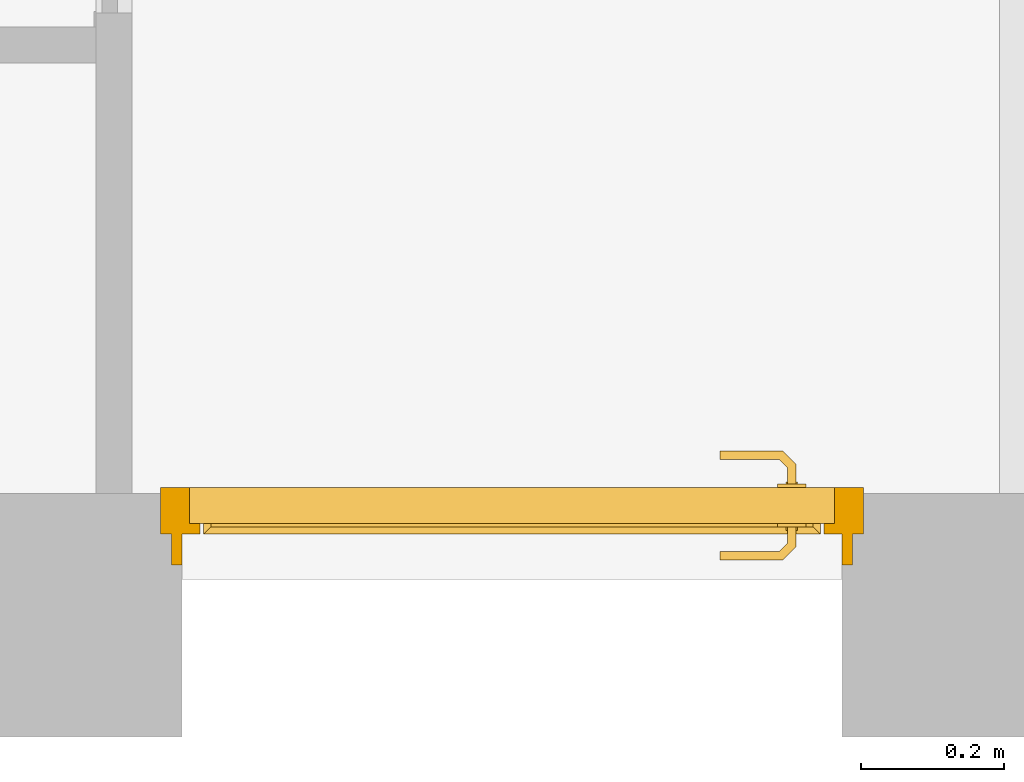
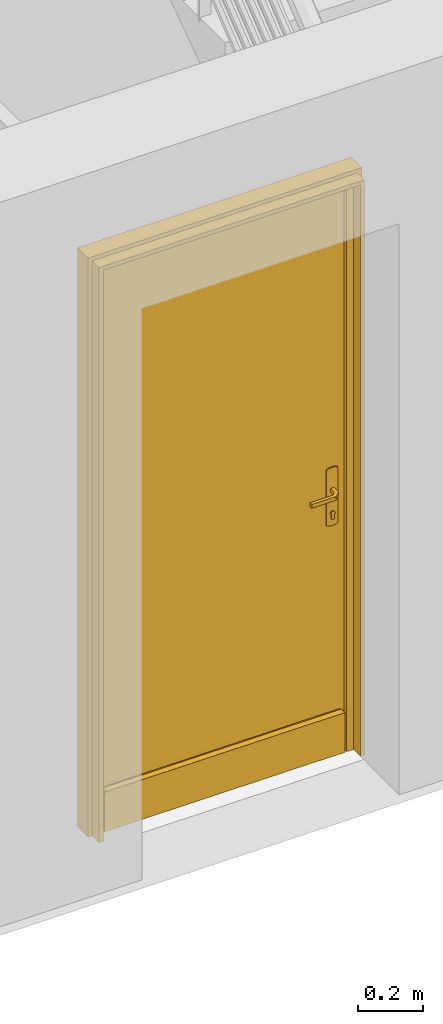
# One storey, part 9 of 13: 1 door.
"""IFC2X3 building model written with IfcOpenShell, lengths in millimetres."""

from ifc_helpers import new_model, entity, si_unit, converted_unit, direction, frame, origin, origin_with_axes, place, context, project, spatial, faceted_brep, element, save


model = new_model("IFC2X3")

# Units and contexts
model_context = context("Model", 3, precision=1e-05, world=origin(), true_north=direction((0.0, 1.0, 0.0)))
ifc_project = project(units=[si_unit("LENGTHUNIT", "METRE", prefix="MILLI"), si_unit("AREAUNIT", "SQUARE_METRE"), si_unit("VOLUMEUNIT", "CUBIC_METRE"), converted_unit("PLANEANGLEUNIT", "DEGREE", entity("IfcPlaneAngleMeasure", 0.01745), si_unit("PLANEANGLEUNIT", "RADIAN"), dimensions=[0, 0, 0, 0, 0, 0, 0]), si_unit("SOLIDANGLEUNIT", "STERADIAN"), si_unit("MASSUNIT", "GRAM"), si_unit("TIMEUNIT", "SECOND"), si_unit("THERMODYNAMICTEMPERATUREUNIT", "DEGREE_CELSIUS"), si_unit("LUMINOUSINTENSITYUNIT", "LUMEN")], contexts=[model_context])

# Site, building, storey
placement = place(None, origin_with_axes())
site_placement = place(placement, frame((11636.08881703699, 2815.7442167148, 4.768371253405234e-06), z_axis=(0.0, 0.0, 1.0), x_axis=(1.0, 0.0, 0.0)))
site = spatial("IfcSite", under=ifc_project, at=site_placement, Name="Surface", CompositionType="ELEMENT")
building_placement = place(placement, origin_with_axes())
building = spatial("IfcBuilding", under=site, at=building_placement, Name="Default Building", CompositionType="ELEMENT")
storey_placement = place(building_placement, origin_with_axes())
storey = spatial("IfcBuildingStorey", under=building, at=storey_placement, Name="Rez de chaussée", CompositionType="ELEMENT", Elevation=0.0)

# Door
door_placement = place(storey_placement, frame((11636.08881703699, 2815.7442167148, 4.768371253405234e-06), z_axis=(0.0, 0.0, 1.0), x_axis=(1.0, 0.0, 0.0)))
element("IfcDoor", 1, at=door_placement, inside=storey, Name="IfcDoor - Porte d'entrée:PP Lisse (0.90m x 2.15m)", context=model_context, shape_type="Brep", body=[
    faceted_brep([(18.91117521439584, -2575.74421811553, 2175.000042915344), (-931.0888128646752, -2532.744216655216, 2175.000042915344), (-931.0888128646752, -2575.74421811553, 2175.000042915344), (18.91117521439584, -2532.744216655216, 2175.000042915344), (3.911189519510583, -2532.744216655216, 2160.000057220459), (-916.08882716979, -2575.74421811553, 2160.000057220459), (-916.08882716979, -2532.744216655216, 2160.000057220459), (3.911189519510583, -2575.74421811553, 2160.000057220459), (-931.0888128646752, -2532.744216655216, -2.861022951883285e-05), (-931.0888128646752, -2575.74421811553, -2.861022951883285e-05), (-916.08882716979, -2575.74421811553, -2.861022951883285e-05), (-916.08882716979, -2532.744216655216, -2.861022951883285e-05), (3.911189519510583, -2575.74421811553, -2.861022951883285e-05), (18.91117521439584, -2575.74421811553, -2.861022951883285e-05), (18.91117521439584, -2532.744216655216, -2.861022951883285e-05), (3.911189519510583, -2532.744216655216, -2.861022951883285e-05), (33.91119071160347, -2532.744216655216, 2190.000028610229), (-946.0888283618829, -2467.744215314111, 2190.000028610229), (-946.0888283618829, -2532.744216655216, 2190.000028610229), (33.91119071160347, -2467.744215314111, 2190.000028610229), (-6.08883074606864, -2467.744215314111, 2149.999947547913), (-906.0888069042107, -2517.744216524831, 2149.999947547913), (-906.0888069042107, -2467.744215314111, 2149.999947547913), (-6.08883074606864, -2517.744216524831, 2149.999947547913), (-21.0888164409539, -2517.744216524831, 2134.999961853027), (-891.0888212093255, -2532.744216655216, 2134.999961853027), (-891.0888212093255, -2517.744216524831, 2134.999961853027), (-21.0888164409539, -2532.744216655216, 2134.999961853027), (-906.0888069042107, -2517.744216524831, -2.861022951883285e-05), (-906.0888069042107, -2467.744215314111, -2.861022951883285e-05), (-891.0888212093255, -2532.744216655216, -2.861022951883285e-05), (-891.0888212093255, -2517.744216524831, -2.861022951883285e-05), (-946.0888283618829, -2467.744215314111, -2.861022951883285e-05), (-946.0888283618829, -2532.744216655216, -2.861022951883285e-05), (33.91119071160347, -2532.744216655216, -2.861022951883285e-05), (33.91119071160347, -2467.744215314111, -2.861022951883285e-05), (-6.08883074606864, -2467.744215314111, -2.861022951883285e-05), (-6.08883074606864, -2517.744216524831, -2.861022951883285e-05), (-21.0888164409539, -2517.744216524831, -2.861022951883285e-05), (-21.0888164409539, -2532.744216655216, -2.861022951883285e-05), (-36.08883192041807, -2522.744217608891, 159.9999785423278), (-26.08881165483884, -2517.744216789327, 149.999988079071), (-36.08883192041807, -2517.744216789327, 159.9999785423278), (-26.08881165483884, -2532.744215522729, 149.999988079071), (-876.0888056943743, -2522.744217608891, 159.9999785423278), (-886.0888259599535, -2532.744215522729, 149.999988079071), (-876.0888056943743, -2517.744216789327, 159.9999785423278), (-886.0888259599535, -2517.744216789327, 149.999988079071), (-886.0888259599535, -2517.744216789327, -4.768371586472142e-05), (-886.0888259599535, -2532.744215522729, -4.768371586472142e-05), (-26.08881165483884, -2532.744215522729, -4.768371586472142e-05), (-26.08881165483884, -2517.744216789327, -4.768371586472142e-05), (-906.0888068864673, -2467.744217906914, 2150.000047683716), (-906.0888068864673, -2517.744216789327, -4.768371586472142e-05), (-906.0888068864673, -2517.744216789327, 2150.000047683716), (-906.0888068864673, -2467.744217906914, -4.768371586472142e-05), (-6.088830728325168, -2517.744216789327, -4.768371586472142e-05), (-6.088830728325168, -2467.744217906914, -4.768371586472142e-05), (-6.088830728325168, -2517.744216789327, 2150.000047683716), (-6.088830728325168, -2467.744217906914, 2150.000047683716), (-61.08882066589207, -2527.744216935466, 908.0464452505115), (-61.08882066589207, -2522.744216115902, 895.0000017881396), (-61.08882066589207, -2522.744216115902, 908.0464452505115), (-61.08882066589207, -2527.744216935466, 895.0000017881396), (-61.25918936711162, -2522.744216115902, 893.7059029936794), (-61.25918936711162, -2527.744216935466, 893.7059029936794), (-61.75869119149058, -2522.744216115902, 892.4999967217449), (-61.75869119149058, -2527.744216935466, 892.4999967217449), (-63.58881828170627, -2522.744216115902, 890.6698733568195), (-62.55328443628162, -2527.744216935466, 891.4644628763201), (-63.58881828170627, -2527.744216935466, 890.6698733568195), (-62.55328443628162, -2522.744216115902, 891.4644628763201), (-64.79472455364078, -2527.744216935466, 890.1703715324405), (-64.79472455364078, -2522.744216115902, 890.1703715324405), (-66.08881962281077, -2527.744216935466, 889.9999991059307), (-66.08881962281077, -2522.744216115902, 889.9999991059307), (-67.38291469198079, -2522.744216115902, 890.1703715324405), (-67.38291469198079, -2527.744216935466, 890.1703715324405), (-68.58881723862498, -2522.744216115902, 890.6698733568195), (-68.58881723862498, -2527.744216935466, 890.6698733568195), (-70.41894432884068, -2522.744216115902, 892.4999967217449), (-69.62435108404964, -2527.744216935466, 891.4644628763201), (-70.41894432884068, -2527.744216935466, 892.4999967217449), (-69.62435108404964, -2522.744216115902, 891.4644628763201), (-70.91844615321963, -2527.744216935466, 893.7059029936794), (-70.91844615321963, -2522.744216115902, 893.7059029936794), (-71.08881857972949, -2527.744216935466, 895.0000017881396), (-71.08881857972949, -2522.744216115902, 895.0000017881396), (-71.08881857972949, -2522.744216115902, 908.0464452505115), (-71.08881857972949, -2527.744216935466, 908.0464452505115), (-72.52446722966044, -2522.744216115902, 909.5393404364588), (-72.52446722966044, -2527.744216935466, 909.5393404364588), (-73.44957974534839, -2522.744216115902, 917.4249976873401), (-74.0073376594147, -2527.744216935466, 915.430320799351), (-73.44957974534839, -2527.744216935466, 917.4249976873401), (-74.0073376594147, -2522.744216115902, 915.430320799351), (-73.5287421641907, -2522.744216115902, 911.3507702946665), (-74.03432738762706, -2527.744216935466, 913.359305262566), (-74.03432738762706, -2522.744216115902, 913.359305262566), (-73.5287421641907, -2527.744216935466, 911.3507702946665), (-72.39844065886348, -2522.744216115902, 919.2096352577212), (-72.39844065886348, -2527.744216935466, 919.2096352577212), (-70.92437681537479, -2527.744216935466, 920.6646181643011), (-69.12619036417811, -2522.744216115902, 921.6924108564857), (-70.92437681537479, -2522.744216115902, 920.6646181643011), (-69.12619036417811, -2527.744216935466, 921.6924108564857), (-67.1244130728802, -2527.744216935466, 922.2241289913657), (-67.1244130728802, -2522.744216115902, 922.2241289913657), (-65.05322244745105, -2522.744216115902, 922.2241289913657), (-65.05322244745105, -2527.744216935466, 922.2241289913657), (-63.05144515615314, -2527.744216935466, 921.6924108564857), (-63.05144515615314, -2522.744216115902, 921.6924108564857), (-58.17029786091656, -2522.744216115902, 915.430320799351), (-58.72805577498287, -2527.744216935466, 917.4249976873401), (-58.17029786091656, -2527.744216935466, 915.430320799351), (-58.72805577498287, -2522.744216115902, 917.4249976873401), (-59.77919486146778, -2522.744216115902, 919.2096352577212), (-61.25326243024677, -2527.744216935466, 920.6646181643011), (-59.77919486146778, -2527.744216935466, 919.2096352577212), (-61.25326243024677, -2522.744216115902, 920.6646181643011), (-58.1433081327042, -2522.744216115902, 913.359305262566), (-58.1433081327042, -2527.744216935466, 913.359305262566), (-59.6531720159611, -2522.744216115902, 909.5393404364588), (-58.64889708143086, -2527.744216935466, 911.3507702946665), (-59.6531720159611, -2527.744216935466, 909.5393404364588), (-58.64889708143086, -2522.744216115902, 911.3507702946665), (-61.08882066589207, -2459.744216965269, 908.0464452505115), (-59.6531720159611, -2462.744217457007, 909.5393404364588), (-61.08882066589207, -2462.744217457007, 908.0464452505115), (-59.6531720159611, -2459.744216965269, 909.5393404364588), (-58.72805577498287, -2462.744217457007, 917.4249976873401), (-58.17029786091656, -2459.744216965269, 915.430320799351), (-58.72805577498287, -2459.744216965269, 917.4249976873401), (-58.17029786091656, -2462.744217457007, 915.430320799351), (-58.1433081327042, -2462.744217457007, 913.359305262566), (-58.64889708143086, -2459.744216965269, 911.3507702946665), (-58.1433081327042, -2459.744216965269, 913.359305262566), (-58.64889708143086, -2462.744217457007, 911.3507702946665), (-59.77919486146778, -2462.744217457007, 919.2096352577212), (-59.77919486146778, -2459.744216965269, 919.2096352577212), (-61.25326243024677, -2459.744216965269, 920.6646181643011), (-63.05144515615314, -2462.744217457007, 921.6924108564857), (-61.25326243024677, -2462.744217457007, 920.6646181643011), (-63.05144515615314, -2459.744216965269, 921.6924108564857), (-65.05322244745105, -2459.744216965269, 922.2241289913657), (-65.05322244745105, -2462.744217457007, 922.2241289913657), (-67.1244130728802, -2462.744217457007, 922.2241289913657), (-67.1244130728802, -2459.744216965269, 922.2241289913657), (-69.12619036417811, -2462.744217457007, 921.6924108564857), (-69.12619036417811, -2459.744216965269, 921.6924108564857), (-73.44957974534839, -2462.744217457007, 917.4249976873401), (-74.0073376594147, -2459.744216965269, 915.430320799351), (-74.0073376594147, -2462.744217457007, 915.430320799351), (-73.44957974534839, -2459.744216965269, 917.4249976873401), (-70.92437681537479, -2459.744216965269, 920.6646181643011), (-72.39844065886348, -2462.744217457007, 919.2096352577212), (-70.92437681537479, -2462.744217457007, 920.6646181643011), (-72.39844065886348, -2459.744216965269, 919.2096352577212), (-74.03432738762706, -2462.744217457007, 913.359305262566), (-74.03432738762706, -2459.744216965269, 913.359305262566), (-73.5287421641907, -2462.744217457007, 911.3507702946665), (-72.52446722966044, -2459.744216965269, 909.5393404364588), (-72.52446722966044, -2462.744217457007, 909.5393404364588), (-73.5287421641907, -2459.744216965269, 911.3507702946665), (-71.08881857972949, -2462.744217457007, 908.0464452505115), (-71.08881857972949, -2459.744216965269, 908.0464452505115), (-71.08881857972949, -2462.744217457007, 895.0000017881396), (-71.08881857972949, -2459.744216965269, 895.0000017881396), (-70.91844615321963, -2462.744217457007, 893.7059029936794), (-70.91844615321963, -2459.744216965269, 893.7059029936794), (-70.41894432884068, -2459.744216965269, 892.4999967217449), (-70.41894432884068, -2462.744217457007, 892.4999967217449), (-69.62435108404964, -2462.744217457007, 891.4644628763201), (-68.58881723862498, -2459.744216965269, 890.6698733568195), (-68.58881723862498, -2462.744217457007, 890.6698733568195), (-69.62435108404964, -2459.744216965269, 891.4644628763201), (-67.38291469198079, -2459.744216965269, 890.1703715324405), (-67.38291469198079, -2462.744217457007, 890.1703715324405), (-66.08881962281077, -2462.744217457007, 889.9999991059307), (-66.08881962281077, -2459.744216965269, 889.9999991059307), (-64.79472455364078, -2462.744217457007, 890.1703715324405), (-64.79472455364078, -2459.744216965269, 890.1703715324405), (-63.58881828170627, -2462.744217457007, 890.6698733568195), (-63.58881828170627, -2459.744216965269, 890.6698733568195), (-62.55328443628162, -2459.744216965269, 891.4644628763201), (-61.75869119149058, -2462.744217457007, 892.4999967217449), (-62.55328443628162, -2462.744217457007, 891.4644628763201), (-61.75869119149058, -2459.744216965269, 892.4999967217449), (-61.25918936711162, -2459.744216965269, 893.7059029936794), (-61.25918936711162, -2462.744217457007, 893.7059029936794), (-61.08882066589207, -2459.744216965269, 895.0000017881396), (-61.08882066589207, -2462.744217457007, 895.0000017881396), (-80.24991278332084, -2564.740000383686, 992.2195583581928), (-124.0311634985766, -2562.714701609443, 992.1213131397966), (-81.92772579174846, -2560.689402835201, 992.2195583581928), (-118.5340273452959, -2568.71470631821, 992.99999922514), (-166.1346012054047, -2560.689402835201, 992.2195583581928), (-124.8543390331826, -2556.714704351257, 992.99999922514), (-166.1346012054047, -2564.740000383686, 992.2195583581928), (-166.1346012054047, -2556.714704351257, 992.99999922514), (-83.57410107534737, -2556.714704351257, 992.99999922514), (-78.60353749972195, -2568.71470631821, 992.99999922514), (-166.1346012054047, -2568.71470631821, 992.99999922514), (-166.1346012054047, -2568.71470631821, 1007.000001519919), (-118.5340245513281, -2568.71470631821, 1007.000001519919), (-78.60353749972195, -2568.71470631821, 1007.000001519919), (-166.1346012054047, -2564.740000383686, 1007.780442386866), (-124.0311634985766, -2562.714701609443, 1007.878685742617), (-166.1346012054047, -2560.689402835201, 1007.780442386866), (-81.92772579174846, -2560.689402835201, 1007.780442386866), (-124.8543520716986, -2556.714704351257, 1007.000001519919), (-80.24991278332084, -2564.740000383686, 1007.780442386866), (-166.1346012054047, -2556.714704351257, 1007.000001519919), (-83.57410107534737, -2556.714704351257, 1007.000001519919), (-72.08882060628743, -2545.229422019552, 992.99999922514), (-68.11411839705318, -2546.875795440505, 992.2195583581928), (-64.06352084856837, -2548.553610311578, 992.2195583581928), (-60.08881863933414, -2550.199983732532, 992.99999922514), (-60.08881863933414, -2550.199983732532, 1007.000001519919), (-64.06352084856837, -2548.553610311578, 1007.780442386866), (-68.11411839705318, -2546.875795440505, 1007.780442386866), (-72.08882060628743, -2545.229422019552, 1007.000001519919), (-72.08882060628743, -2522.744216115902, 992.99999922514), (-68.11411839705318, -2522.744216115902, 992.2195583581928), (-64.06352084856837, -2522.744216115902, 992.2195583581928), (-60.08881863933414, -2522.744216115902, 992.99999922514), (-60.08881863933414, -2522.744216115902, 1007.000001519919), (-64.06352084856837, -2522.744216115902, 1007.780442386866), (-68.11411839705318, -2522.744216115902, 1007.780442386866), (-72.08882060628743, -2522.744216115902, 1007.000001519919), (-166.1074587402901, -2416.716052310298, 992.99999922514), (-166.1074587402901, -2416.716052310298, 1007.000001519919), (-118.3965157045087, -2416.716052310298, 1007.000001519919), (-118.3965268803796, -2416.716052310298, 992.99999922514), (-78.46602958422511, -2416.716052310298, 992.99999922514), (-78.46602958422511, -2416.716052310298, 1007.000001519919), (-166.1074587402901, -2420.690758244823, 992.2195583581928), (-123.9488383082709, -2422.716057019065, 992.1213131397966), (-166.1074587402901, -2424.741355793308, 992.2195583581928), (-81.7902160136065, -2424.741355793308, 992.2195583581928), (-124.7720250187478, -2428.716054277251, 992.99999922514), (-80.11240486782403, -2420.690758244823, 992.2195583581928), (-166.1074587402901, -2428.716054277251, 992.99999922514), (-83.43659129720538, -2428.716054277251, 992.99999922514), (-124.7720250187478, -2428.716054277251, 1007.000001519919), (-83.43659129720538, -2428.716054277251, 1007.000001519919), (-166.1074587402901, -2428.716054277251, 1007.000001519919), (-80.11240486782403, -2420.690758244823, 1007.780442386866), (-123.9488383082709, -2422.716057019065, 1007.878685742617), (-81.7902160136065, -2424.741355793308, 1007.780442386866), (-166.1074587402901, -2424.741355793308, 1007.780442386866), (-166.1074587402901, -2420.690758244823, 1007.780442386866), (-60.08881863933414, -2435.093266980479, 1007.000001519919), (-60.08881863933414, -2435.093266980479, 992.99999922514), (-64.06352084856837, -2436.739640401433, 992.2195583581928), (-68.11411839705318, -2438.417455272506, 992.2195583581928), (-72.08882060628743, -2440.06382869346, 992.99999922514), (-72.08882060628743, -2440.06382869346, 1007.000001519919), (-68.11411839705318, -2438.417455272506, 1007.780442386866), (-64.06352084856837, -2436.739640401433, 1007.780442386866), (-60.08881863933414, -2462.744217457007, 1007.000001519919), (-60.08881863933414, -2462.744217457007, 992.99999922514), (-64.06352084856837, -2462.744217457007, 992.2195583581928), (-68.11411839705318, -2462.744217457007, 992.2195583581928), (-72.08882060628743, -2462.744217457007, 992.99999922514), (-72.08882060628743, -2462.744217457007, 1007.000001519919), (-68.11411839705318, -2462.744217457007, 1007.780442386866), (-64.06352084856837, -2462.744217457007, 1007.780442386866), (-86.08881917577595, -2517.744217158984, 1079.999996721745), (-86.08881917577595, -2522.744216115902, 870.0000032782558), (-86.08881917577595, -2522.744216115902, 1079.999996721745), (-86.08881917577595, -2517.744217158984, 870.0000032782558), (-76.44158017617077, -2522.744216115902, 866.0039812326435), (-76.44158017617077, -2517.744217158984, 866.0039812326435), (-66.08881962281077, -2522.744216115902, 864.6410167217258), (-66.08881962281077, -2517.744217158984, 864.6410167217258), (-55.73605534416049, -2517.744217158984, 866.0039812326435), (-55.73605534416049, -2522.744216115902, 866.0039812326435), (-46.08882006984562, -2522.744216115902, 870.0000032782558), (-46.08882006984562, -2517.744217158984, 870.0000032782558), (-46.08882006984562, -2522.744216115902, 1079.999996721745), (-46.08882006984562, -2517.744217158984, 1079.999996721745), (-55.73605534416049, -2522.744216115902, 1083.996018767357), (-55.73605534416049, -2517.744217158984, 1083.996018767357), (-66.08881962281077, -2522.744216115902, 1085.358983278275), (-66.08881962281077, -2517.744217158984, 1085.358983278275), (-76.44158017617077, -2517.744217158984, 1083.996018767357), (-76.44158017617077, -2522.744216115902, 1083.996018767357), (-46.08882006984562, -2462.744217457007, 870.0000032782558), (-46.08882006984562, -2467.744216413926, 1079.999996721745), (-46.08882006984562, -2467.744216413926, 870.0000032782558), (-46.08882006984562, -2462.744217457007, 1079.999996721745), (-55.73605534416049, -2467.744216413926, 1083.996018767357), (-55.73605534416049, -2462.744217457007, 1083.996018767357), (-66.08881962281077, -2467.744216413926, 1085.358983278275), (-66.08881962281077, -2462.744217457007, 1085.358983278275), (-76.44158017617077, -2462.744217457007, 1083.996018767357), (-76.44158017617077, -2467.744216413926, 1083.996018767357), (-86.08881917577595, -2467.744216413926, 1079.999996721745), (-86.08881917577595, -2462.744217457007, 1079.999996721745), (-86.08881917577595, -2467.744216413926, 870.0000032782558), (-86.08881917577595, -2462.744217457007, 870.0000032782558), (-76.44158017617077, -2467.744216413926, 866.0039812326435), (-76.44158017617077, -2462.744217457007, 866.0039812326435), (-66.08881962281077, -2467.744216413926, 864.6410167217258), (-66.08881962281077, -2462.744217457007, 864.6410167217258), (-55.73605534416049, -2462.744217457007, 866.0039812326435), (-55.73605534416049, -2467.744216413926, 866.0039812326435)], [[[0, 1, 2]], [[0, 3, 1]], [[4, 5, 6]], [[4, 7, 5]], [[2, 8, 9]], [[2, 1, 8]], [[10, 8, 11]], [[10, 9, 8]], [[6, 10, 11]], [[6, 5, 10]], [[0, 12, 13]], [[0, 7, 12]], [[0, 5, 7]], [[2, 5, 0]], [[2, 10, 5]], [[10, 2, 9]], [[13, 3, 0]], [[13, 14, 3]], [[1, 6, 8]], [[1, 4, 6]], [[3, 4, 1]], [[3, 15, 4]], [[15, 3, 14]], [[8, 6, 11]], [[15, 7, 4]], [[15, 12, 7]], [[12, 14, 13]], [[12, 15, 14]], [[16, 17, 18]], [[16, 19, 17]], [[20, 21, 22]], [[20, 23, 21]], [[24, 25, 26]], [[24, 27, 25]], [[22, 28, 29]], [[22, 21, 28]], [[26, 30, 31]], [[26, 25, 30]], [[31, 30, 28]], [[28, 32, 29]], [[28, 33, 32]], [[33, 28, 30]], [[18, 32, 33]], [[18, 17, 32]], [[34, 19, 16]], [[34, 35, 19]], [[17, 22, 32]], [[17, 20, 22]], [[19, 20, 17]], [[19, 36, 20]], [[36, 19, 35]], [[32, 22, 29]], [[36, 23, 20]], [[36, 37, 23]], [[21, 26, 28]], [[21, 24, 26]], [[24, 21, 23]], [[28, 26, 31]], [[23, 38, 24]], [[38, 23, 37]], [[38, 27, 24]], [[38, 39, 27]], [[16, 39, 34]], [[16, 27, 39]], [[16, 25, 27]], [[18, 25, 16]], [[18, 30, 25]], [[30, 18, 33]], [[36, 35, 37]], [[37, 39, 38]], [[37, 34, 39]], [[34, 37, 35]], [[40, 41, 42]], [[40, 43, 41]], [[44, 43, 40]], [[44, 45, 43]], [[45, 46, 47]], [[45, 44, 46]], [[42, 44, 40]], [[42, 46, 44]], [[48, 45, 47]], [[48, 49, 45]], [[48, 50, 49]], [[48, 51, 50]], [[50, 41, 43]], [[50, 51, 41]], [[49, 43, 45]], [[49, 50, 43]], [[46, 48, 47]], [[42, 48, 46]], [[41, 48, 42]], [[48, 41, 51]], [[52, 53, 54]], [[52, 55, 53]], [[55, 56, 53]], [[55, 57, 56]], [[57, 58, 56]], [[57, 59, 58]], [[59, 54, 58]], [[59, 52, 54]], [[54, 56, 58]], [[54, 53, 56]], [[52, 57, 55]], [[52, 59, 57]], [[60, 61, 62]], [[60, 63, 61]], [[63, 64, 61]], [[63, 65, 64]], [[65, 66, 64]], [[65, 67, 66]], [[68, 69, 70]], [[68, 71, 69]], [[67, 71, 66]], [[67, 69, 71]], [[68, 72, 73]], [[68, 70, 72]], [[73, 74, 75]], [[73, 72, 74]], [[74, 76, 75]], [[74, 77, 76]], [[77, 78, 76]], [[77, 79, 78]], [[80, 81, 82]], [[80, 83, 81]], [[79, 83, 78]], [[79, 81, 83]], [[80, 84, 85]], [[80, 82, 84]], [[85, 86, 87]], [[85, 84, 86]], [[86, 88, 87]], [[86, 89, 88]], [[89, 90, 88]], [[89, 91, 90]], [[92, 93, 94]], [[92, 95, 93]], [[96, 97, 98]], [[96, 99, 97]], [[91, 96, 90]], [[91, 99, 96]], [[97, 95, 98]], [[97, 93, 95]], [[94, 100, 92]], [[94, 101, 100]], [[102, 103, 104]], [[102, 105, 103]], [[100, 102, 104]], [[100, 101, 102]], [[103, 106, 107]], [[103, 105, 106]], [[108, 106, 109]], [[108, 107, 106]], [[108, 110, 111]], [[108, 109, 110]], [[112, 113, 114]], [[112, 115, 113]], [[116, 117, 118]], [[116, 119, 117]], [[110, 119, 111]], [[110, 117, 119]], [[118, 115, 116]], [[118, 113, 115]], [[120, 114, 121]], [[120, 112, 114]], [[122, 123, 124]], [[122, 125, 123]], [[120, 123, 125]], [[120, 121, 123]], [[122, 60, 62]], [[122, 124, 60]], [[112, 116, 115]], [[112, 119, 116]], [[120, 119, 112]], [[120, 111, 119]], [[125, 111, 120]], [[125, 108, 111]], [[122, 108, 125]], [[122, 107, 108]], [[62, 107, 122]], [[62, 103, 107]], [[62, 104, 103]], [[62, 100, 104]], [[62, 92, 100]], [[61, 92, 62]], [[64, 92, 61]], [[64, 95, 92]], [[66, 95, 64]], [[66, 98, 95]], [[66, 88, 98]], [[71, 88, 66]], [[68, 88, 71]], [[73, 88, 68]], [[75, 88, 73]], [[76, 88, 75]], [[78, 88, 76]], [[78, 87, 88]], [[83, 87, 78]], [[83, 85, 87]], [[85, 83, 80]], [[88, 96, 98]], [[96, 88, 90]], [[124, 123, 60]], [[65, 69, 67]], [[65, 70, 69]], [[63, 70, 65]], [[63, 72, 70]], [[63, 74, 72]], [[63, 77, 74]], [[63, 79, 77]], [[63, 81, 79]], [[63, 82, 81]], [[63, 84, 82]], [[63, 86, 84]], [[60, 86, 63]], [[123, 86, 60]], [[121, 86, 123]], [[114, 86, 121]], [[113, 86, 114]], [[118, 86, 113]], [[117, 86, 118]], [[117, 89, 86]], [[110, 89, 117]], [[110, 91, 89]], [[109, 91, 110]], [[109, 99, 91]], [[106, 99, 109]], [[106, 97, 99]], [[105, 97, 106]], [[105, 93, 97]], [[102, 93, 105]], [[102, 94, 93]], [[94, 102, 101]], [[126, 127, 128]], [[126, 129, 127]], [[130, 131, 132]], [[130, 133, 131]], [[134, 135, 136]], [[134, 137, 135]], [[129, 137, 127]], [[129, 135, 137]], [[136, 133, 134]], [[136, 131, 133]], [[132, 138, 130]], [[132, 139, 138]], [[140, 141, 142]], [[140, 143, 141]], [[139, 142, 138]], [[139, 140, 142]], [[141, 144, 145]], [[141, 143, 144]], [[146, 144, 147]], [[146, 145, 144]], [[147, 148, 146]], [[147, 149, 148]], [[150, 151, 152]], [[150, 153, 151]], [[154, 155, 156]], [[154, 157, 155]], [[149, 156, 148]], [[149, 154, 156]], [[157, 150, 155]], [[157, 153, 150]], [[158, 151, 159]], [[158, 152, 151]], [[160, 161, 162]], [[160, 163, 161]], [[158, 163, 160]], [[158, 159, 163]], [[161, 164, 162]], [[161, 165, 164]], [[165, 166, 164]], [[165, 167, 166]], [[167, 168, 166]], [[167, 169, 168]], [[168, 170, 171]], [[168, 169, 170]], [[172, 173, 174]], [[172, 175, 173]], [[170, 172, 171]], [[170, 175, 172]], [[174, 176, 177]], [[174, 173, 176]], [[176, 178, 177]], [[176, 179, 178]], [[179, 180, 178]], [[179, 181, 180]], [[182, 181, 183]], [[182, 180, 181]], [[184, 185, 186]], [[184, 187, 185]], [[183, 186, 182]], [[183, 184, 186]], [[185, 188, 189]], [[185, 187, 188]], [[189, 190, 191]], [[189, 188, 190]], [[190, 128, 191]], [[190, 126, 128]], [[127, 137, 128]], [[189, 186, 185]], [[189, 182, 186]], [[191, 182, 189]], [[191, 180, 182]], [[191, 178, 180]], [[191, 177, 178]], [[191, 174, 177]], [[191, 172, 174]], [[191, 171, 172]], [[191, 168, 171]], [[191, 166, 168]], [[128, 166, 191]], [[137, 166, 128]], [[134, 166, 137]], [[133, 166, 134]], [[130, 166, 133]], [[138, 166, 130]], [[142, 166, 138]], [[142, 164, 166]], [[141, 164, 142]], [[141, 162, 164]], [[145, 162, 141]], [[145, 160, 162]], [[146, 160, 145]], [[146, 158, 160]], [[148, 158, 146]], [[148, 152, 158]], [[156, 152, 148]], [[156, 150, 152]], [[150, 156, 155]], [[131, 139, 132]], [[131, 140, 139]], [[136, 140, 131]], [[136, 143, 140]], [[135, 143, 136]], [[135, 144, 143]], [[129, 144, 135]], [[129, 147, 144]], [[126, 147, 129]], [[126, 149, 147]], [[126, 154, 149]], [[126, 157, 154]], [[126, 153, 157]], [[190, 153, 126]], [[188, 153, 190]], [[188, 151, 153]], [[187, 151, 188]], [[187, 159, 151]], [[187, 165, 159]], [[184, 165, 187]], [[183, 165, 184]], [[181, 165, 183]], [[179, 165, 181]], [[176, 165, 179]], [[173, 165, 176]], [[173, 167, 165]], [[175, 167, 173]], [[175, 169, 167]], [[169, 175, 170]], [[165, 163, 159]], [[163, 165, 161]], [[192, 193, 194]], [[192, 195, 193]], [[196, 197, 193]], [[198, 196, 193]], [[197, 196, 199]], [[200, 194, 197]], [[193, 197, 194]], [[192, 201, 195]], [[202, 198, 195]], [[195, 198, 193]], [[195, 203, 202]], [[195, 204, 203]], [[195, 205, 204]], [[205, 195, 201]], [[206, 207, 208]], [[209, 210, 207]], [[211, 209, 207]], [[204, 211, 207]], [[205, 211, 204]], [[203, 204, 206]], [[210, 212, 208]], [[213, 210, 209]], [[204, 207, 206]], [[210, 208, 207]], [[199, 213, 200]], [[199, 210, 213]], [[210, 199, 212]], [[203, 198, 202]], [[206, 198, 203]], [[206, 196, 198]], [[208, 196, 206]], [[208, 199, 196]], [[199, 208, 212]], [[194, 214, 215]], [[194, 200, 214]], [[201, 216, 217]], [[201, 192, 216]], [[217, 205, 201]], [[217, 218, 205]], [[211, 218, 219]], [[211, 205, 218]], [[213, 220, 221]], [[213, 209, 220]], [[221, 200, 213]], [[221, 214, 200]], [[215, 222, 223]], [[215, 214, 222]], [[215, 192, 194]], [[215, 216, 192]], [[223, 216, 215]], [[216, 223, 224]], [[217, 224, 225]], [[217, 216, 224]], [[225, 218, 217]], [[225, 226, 218]], [[219, 226, 227]], [[219, 218, 226]], [[211, 220, 209]], [[219, 220, 211]], [[219, 228, 220]], [[228, 219, 227]], [[221, 228, 229]], [[221, 220, 228]], [[229, 214, 221]], [[229, 222, 214]], [[228, 222, 229]], [[228, 223, 222]], [[227, 223, 228]], [[227, 224, 223]], [[226, 224, 227]], [[224, 226, 225]], [[230, 231, 232]], [[232, 233, 230]], [[232, 234, 233]], [[234, 232, 235]], [[236, 237, 238]], [[239, 240, 237]], [[241, 239, 237]], [[233, 241, 237]], [[234, 241, 233]], [[230, 233, 236]], [[240, 242, 238]], [[243, 240, 239]], [[233, 237, 236]], [[240, 238, 237]], [[244, 243, 245]], [[246, 243, 244]], [[246, 240, 243]], [[240, 246, 242]], [[247, 248, 249]], [[247, 232, 248]], [[250, 244, 248]], [[251, 250, 248]], [[244, 250, 246]], [[245, 249, 244]], [[248, 244, 249]], [[247, 235, 232]], [[231, 251, 232]], [[232, 251, 248]], [[246, 238, 242]], [[250, 238, 246]], [[250, 236, 238]], [[251, 236, 250]], [[251, 230, 236]], [[230, 251, 231]], [[252, 234, 235]], [[252, 253, 234]], [[241, 253, 254]], [[241, 234, 253]], [[243, 255, 256]], [[243, 239, 255]], [[256, 245, 243]], [[256, 257, 245]], [[249, 257, 258]], [[249, 245, 257]], [[235, 259, 252]], [[235, 247, 259]], [[260, 253, 252]], [[260, 261, 253]], [[254, 261, 262]], [[254, 253, 261]], [[241, 255, 239]], [[254, 255, 241]], [[254, 263, 255]], [[263, 254, 262]], [[256, 263, 264]], [[256, 255, 263]], [[264, 257, 256]], [[264, 265, 257]], [[258, 265, 266]], [[258, 257, 265]], [[258, 247, 249]], [[258, 259, 247]], [[266, 259, 258]], [[259, 266, 267]], [[252, 267, 260]], [[252, 259, 267]], [[264, 266, 265]], [[263, 266, 264]], [[263, 267, 266]], [[262, 267, 263]], [[262, 260, 267]], [[260, 262, 261]], [[268, 269, 270]], [[268, 271, 269]], [[272, 271, 273]], [[272, 269, 271]], [[274, 273, 275]], [[274, 272, 273]], [[276, 274, 275]], [[276, 277, 274]], [[278, 276, 279]], [[278, 277, 276]], [[279, 280, 278]], [[279, 281, 280]], [[282, 281, 283]], [[282, 280, 281]], [[284, 283, 285]], [[284, 282, 283]], [[286, 284, 285]], [[286, 287, 284]], [[270, 286, 268]], [[270, 287, 286]], [[274, 269, 272]], [[277, 269, 274]], [[278, 269, 277]], [[278, 270, 269]], [[278, 287, 270]], [[278, 284, 287]], [[278, 282, 284]], [[282, 278, 280]], [[285, 268, 286]], [[283, 268, 285]], [[281, 268, 283]], [[281, 271, 268]], [[281, 273, 271]], [[281, 275, 273]], [[281, 276, 275]], [[276, 281, 279]], [[288, 289, 290]], [[288, 291, 289]], [[292, 291, 293]], [[292, 289, 291]], [[294, 293, 295]], [[294, 292, 293]], [[296, 294, 295]], [[296, 297, 294]], [[298, 296, 299]], [[298, 297, 296]], [[299, 300, 298]], [[299, 301, 300]], [[302, 301, 303]], [[302, 300, 301]], [[304, 303, 305]], [[304, 302, 303]], [[306, 304, 305]], [[306, 307, 304]], [[290, 306, 288]], [[290, 307, 306]], [[304, 300, 302]], [[307, 300, 304]], [[290, 300, 307]], [[290, 298, 300]], [[290, 297, 298]], [[290, 294, 297]], [[290, 292, 294]], [[292, 290, 289]], [[295, 299, 296]], [[293, 299, 295]], [[291, 299, 293]], [[291, 301, 299]], [[291, 303, 301]], [[291, 305, 303]], [[291, 306, 305]], [[306, 291, 288]]]),
])

save(model, "model.ifc")
